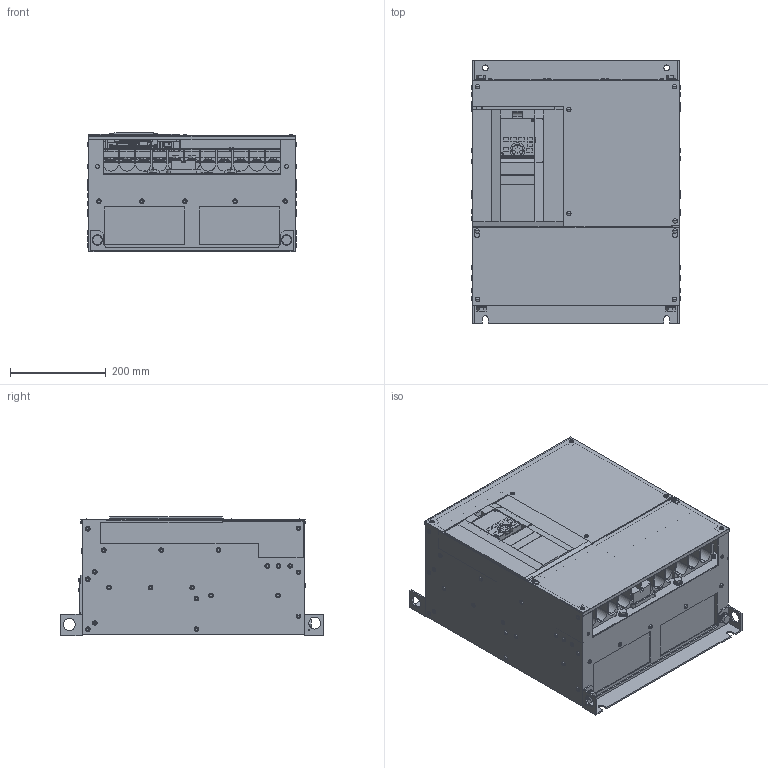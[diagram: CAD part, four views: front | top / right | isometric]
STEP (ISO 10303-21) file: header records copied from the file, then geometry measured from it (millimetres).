
FILE_DESCRIPTION((''),'2;1');
FILE_NAME('3D-INV-A8-02_13_ASM','2014-01-24T',('UJ56049'),(''),'PRO/ENGINEER BY PARAMETRIC TECHNOLOGY CORPORATION, 2011490','PRO/ENGINEER BY PARAMETRIC TECHNOLOGY CORPORATION, 2011490','');
FILE_SCHEMA(('CONFIG_CONTROL_DESIGN'));
Products named in the file (30): 3D-BASE-A8-02_13; 3D-WAKU-A8-02_13_ASM; 3D-ASHI_UPR-A8-02_13; 3D-BOLT-SW-PW-M10X25_; 3D-ASHI_UPR-BOLT-A8-02_13_ASM; 3D-ASHI_LWR-A8-02_13; 3D-ASHI_LWR-BOLT-A8-02_13_ASM; 3D-FAN-92; 3D-FAN_ASSY-A8-02_13_ASM; 3D-FAN_COV-A8-01_13; 3D-FAN_COV_ASSY-A8-02_13_ASM; 3D-TE_NEJI-M4X8_; 3D-TE_COV-R1S1_; 3D-TE_ASSY-A8-R1S1_ASM; 3DT-PUPM8X16-BOLT-A8; 3D-PUPM8X16-A8_ASM; 3D-TA-A8; 3D-A8-TA_ASM; 3D-DOT-TE_P1_P-A8-02_13; 3D-TE_BOLT-A8-02_13_ASM; 3D--TE_COV-A8-02_13; 3D-CA_COVER-A8; 3D-DU_ASSY-A8; 3D-IF_COV-A80; 3D-SC-PN-BD-M4X10-BZN-A8; 3D-CA_COV-A8_ASM; 3D-COV_LWR-A8-02_13; 3D-SC-M4X10-BZN; 3D-BOLT-COV_LWR-A8-02_13_ASM; 3D-INV-A8-02_13_ASM
Assembly tree (55 placements, depth 4):
  3D-INV-A8-02_13_ASM
    3D-WAKU-A8-02_13_ASM
      3D-BASE-A8-02_13
    3D-ASHI_UPR-A8-02_13
    3D-ASHI_UPR-BOLT-A8-02_13_ASM
      3D-BOLT-SW-PW-M10X25_  x2
    3D-ASHI_LWR-A8-02_13
    3D-ASHI_LWR-BOLT-A8-02_13_ASM
      3D-BOLT-SW-PW-M10X25_  x2
    3D-FAN_ASSY-A8-02_13_ASM
      3D-FAN-92  x3
    3D-FAN_COV_ASSY-A8-02_13_ASM
      3D-FAN_COV-A8-01_13  x3
    3D-TE_ASSY-A8-R1S1_ASM
      3D-TE_NEJI-M4X8_  x4
      3D-TE_COV-R1S1_
    3D-PUPM8X16-A8_ASM  x2
      3DT-PUPM8X16-BOLT-A8
    3D-A8-TA_ASM
      3D-TA-A8
    3D-DOT-TE_P1_P-A8-02_13
    3D-TE_BOLT-A8-02_13_ASM
      3D-PUPM8X16-A8_ASM  x11
        3DT-PUPM8X16-BOLT-A8
    3D--TE_COV-A8-02_13
    3D-CA_COV-A8_ASM
      3D-CA_COVER-A8
      3D-DU_ASSY-A8
      3D-IF_COV-A80
      3D-SC-PN-BD-M4X10-BZN-A8  x2
    3D-COV_LWR-A8-02_13
    3D-BOLT-COV_LWR-A8-02_13_ASM
      3D-SC-M4X10-BZN  x4
Bounding box: 437.2 x 550 x 251 mm (x, y, z)
Volume: 42051032.6 mm3; surface area: 2369342.9 mm2
Topology: 45 solids, 60 shells, 4848 faces, 12999 edges, 8515 vertices
Faces by surface type: plane 3383, cylinder 1173, torus 154, sphere 68, cone 64, extrusion 6
Entity records: 116201 total; most frequent: CARTESIAN_POINT 20231, DIRECTION 19708, ORIENTED_EDGE 19610, EDGE_CURVE 9805, VECTOR 7548, LINE 7546, VERTEX_POINT 6467, AXIS2_PLACEMENT_3D 6080
